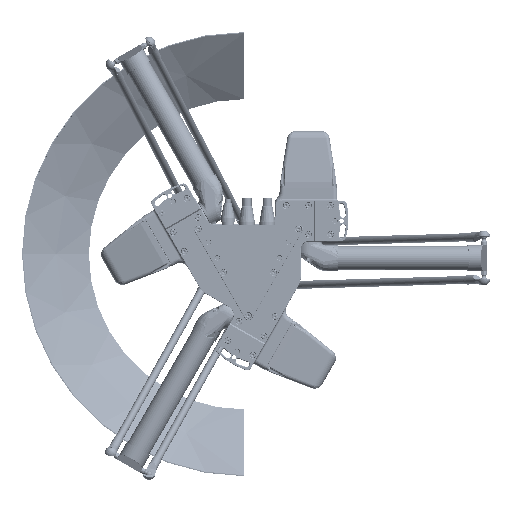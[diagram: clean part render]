
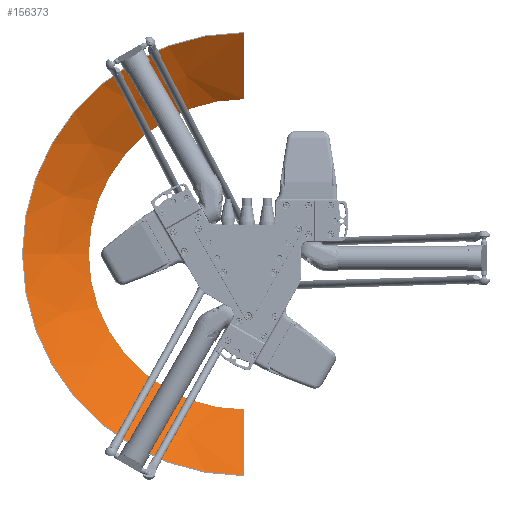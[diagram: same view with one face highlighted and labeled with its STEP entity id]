
A CAD part, top view. The second image highlights one B-rep face of the part: STEP entity #156373.
In plain terms, the highlighted conical face has half-angle 56.31 degrees and reference radius 498.891 mm.
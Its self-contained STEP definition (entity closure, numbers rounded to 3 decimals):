
#4911 = DIRECTION ( 'NONE',  ( 1., 0., 0. ) ) ;
#10195 = AXIS2_PLACEMENT_3D ( 'NONE', #172473, #70256, #11885 ) ;
#11885 = DIRECTION ( 'NONE',  ( 1., 0., 0. ) ) ;
#22179 = CARTESIAN_POINT ( 'NONE',  ( 0., 349.394, -1048. ) ) ;
#23494 = EDGE_CURVE ( 'NONE', #154770, #83055, #105676, .T. ) ;
#26585 = CARTESIAN_POINT ( 'NONE',  ( 0., 0., -1280.93 ) ) ;
#33075 = ORIENTED_EDGE ( 'NONE', *, *, #23494, .T. ) ;
#35757 = DIRECTION ( 'NONE',  ( 0., 0., -1. ) ) ;
#41076 = DIRECTION ( 'NONE',  ( 0., 0.832, -0.555 ) ) ;
#51135 = EDGE_LOOP ( 'NONE', ( #140468, #73778, #197218, #241634, #33075 ) ) ;
#57191 = EDGE_CURVE ( 'NONE', #83055, #63385, #105263, .T. ) ;
#61488 = EDGE_CURVE ( 'NONE', #154770, #64965, #192473, .T. ) ;
#63385 = VERTEX_POINT ( 'NONE', #22179 ) ;
#64965 = VERTEX_POINT ( 'NONE', #201876 ) ;
#70256 = DIRECTION ( 'NONE',  ( 0., 0., 1. ) ) ;
#73778 = ORIENTED_EDGE ( 'NONE', *, *, #107245, .T. ) ;
#83055 = VERTEX_POINT ( 'NONE', #157470 ) ;
#92335 = DIRECTION ( 'NONE',  ( 1., 0., 0. ) ) ;
#104511 = VERTEX_POINT ( 'NONE', #137159 ) ;
#105263 = CIRCLE ( 'NONE', #198554, 349.394 ) ;
#105676 = LINE ( 'NONE', #120475, #260209 ) ;
#107245 = EDGE_CURVE ( 'NONE', #63385, #104511, #197512, .T. ) ;
#108942 = DIRECTION ( 'NONE',  ( 0., 0., -1. ) ) ;
#120475 = CARTESIAN_POINT ( 'NONE',  ( 0., 0., -1280.93 ) ) ;
#125787 = CARTESIAN_POINT ( 'NONE',  ( 0., 0., -948.93 ) ) ;
#135960 = FACE_OUTER_BOUND ( 'NONE', #51135, .T. ) ;
#137159 = CARTESIAN_POINT ( 'NONE',  ( 0., 498., -948.93 ) ) ;
#137255 = CARTESIAN_POINT ( 'NONE',  ( 0., 0., -1048. ) ) ;
#140468 = ORIENTED_EDGE ( 'NONE', *, *, #57191, .T. ) ;
#145973 = CIRCLE ( 'NONE', #218115, 498. ) ;
#154770 = VERTEX_POINT ( 'NONE', #203662 ) ;
#154929 = DIRECTION ( 'NONE',  ( 1., 0., 0. ) ) ;
#156373 = ADVANCED_FACE ( 'NONE', ( #135960 ), #236749, .F. ) ;
#157470 = CARTESIAN_POINT ( 'NONE',  ( 0., -349.394, -1048. ) ) ;
#157674 = AXIS2_PLACEMENT_3D ( 'NONE', #191048, #192752, #92335 ) ;
#165948 = VECTOR ( 'NONE', #189723, 1000. ) ;
#172473 = CARTESIAN_POINT ( 'NONE',  ( 0., 0., -948.336 ) ) ;
#189723 = DIRECTION ( 'NONE',  ( 0., 0.832, 0.555 ) ) ;
#191048 = CARTESIAN_POINT ( 'NONE',  ( 0., 0., -948.93 ) ) ;
#192473 = CIRCLE ( 'NONE', #157674, 498. ) ;
#192752 = DIRECTION ( 'NONE',  ( 0., 0., -1. ) ) ;
#197218 = ORIENTED_EDGE ( 'NONE', *, *, #231180, .F. ) ;
#197512 = LINE ( 'NONE', #26585, #165948 ) ;
#198554 = AXIS2_PLACEMENT_3D ( 'NONE', #137255, #35757, #154929 ) ;
#201876 = CARTESIAN_POINT ( 'NONE',  ( -498., 0., -948.93 ) ) ;
#203662 = CARTESIAN_POINT ( 'NONE',  ( 0., -498., -948.93 ) ) ;
#218115 = AXIS2_PLACEMENT_3D ( 'NONE', #125787, #108942, #4911 ) ;
#231180 = EDGE_CURVE ( 'NONE', #64965, #104511, #145973, .T. ) ;
#236749 = CONICAL_SURFACE ( 'NONE', #10195, 498.891, 0.983 ) ;
#241634 = ORIENTED_EDGE ( 'NONE', *, *, #61488, .F. ) ;
#260209 = VECTOR ( 'NONE', #41076, 1000. ) ;
